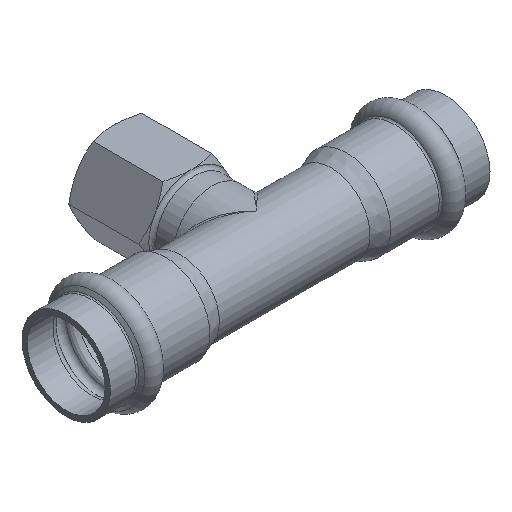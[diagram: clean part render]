
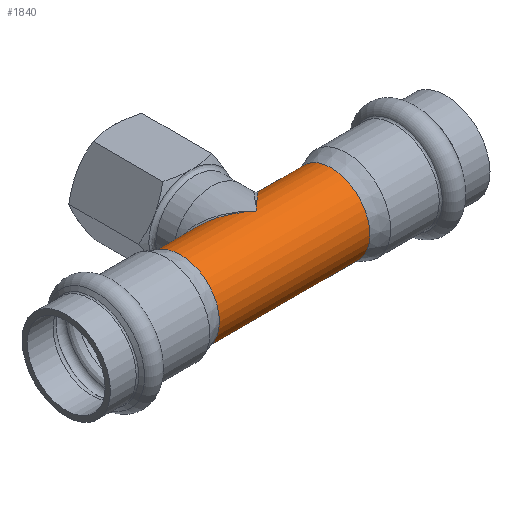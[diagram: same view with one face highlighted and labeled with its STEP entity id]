
A CAD part, isometric view. The second image highlights one B-rep face of the part: STEP entity #1840.
In plain terms, the highlighted cylindrical face has radius 11 mm (diameter 22 mm), a full revolution.
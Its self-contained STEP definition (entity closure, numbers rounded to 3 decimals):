
#1157=CARTESIAN_POINT('',(0.0,0.0,-11.));
#1158=VERTEX_POINT('',#1157);
#1159=CARTESIAN_POINT('',(0.0,0.0,11.));
#1160=VERTEX_POINT('',#1159);
#1161=CARTESIAN_POINT('',(0.0,0.0,0.0));
#1162=DIRECTION('',(0.676,0.737,0.0));
#1163=DIRECTION('',(-0.737,0.676,0.0));
#1164=AXIS2_PLACEMENT_3D('',#1161,#1162,#1163);
#1165=ELLIPSE('',#1164,16.279,11.);
#1166=EDGE_CURVE('',#1158,#1160,#1165,.T.);
#1323=CARTESIAN_POINT('',(0.0,0.0,0.0));
#1324=DIRECTION('',(-0.676,0.737,0.0));
#1325=DIRECTION('',(0.737,0.676,0.0));
#1326=AXIS2_PLACEMENT_3D('',#1323,#1324,#1325);
#1327=ELLIPSE('',#1326,16.279,11.);
#1328=EDGE_CURVE('',#1160,#1158,#1327,.T.);
#1802=CARTESIAN_POINT('',(-21.408,11.,0.0));
#1803=VERTEX_POINT('',#1802);
#1804=CARTESIAN_POINT('',(-21.408,0.,0.0));
#1805=DIRECTION('',(1.0,0.0,0.0));
#1806=DIRECTION('',(0.0,1.0,0.0));
#1807=AXIS2_PLACEMENT_3D('',#1804,#1805,#1806);
#1808=CIRCLE('',#1807,11.);
#1809=EDGE_CURVE('',#1803,#1803,#1808,.T.);
#1817=CARTESIAN_POINT('',(0.0,0.0,0.0));
#1818=DIRECTION('',(1.0,0.,0.0));
#1819=DIRECTION('',(0.0,1.0,0.0));
#1820=AXIS2_PLACEMENT_3D('',#1817,#1818,#1819);
#1821=CYLINDRICAL_SURFACE('',#1820,11.);
#1822=CARTESIAN_POINT('',(21.408,11.,0.0));
#1823=VERTEX_POINT('',#1822);
#1824=CARTESIAN_POINT('',(21.408,0.,0.0));
#1825=DIRECTION('',(1.0,0.0,0.0));
#1826=DIRECTION('',(0.0,1.0,0.0));
#1827=AXIS2_PLACEMENT_3D('',#1824,#1825,#1826);
#1828=CIRCLE('',#1827,11.);
#1829=EDGE_CURVE('',#1823,#1823,#1828,.T.);
#1830=ORIENTED_EDGE('',*,*,#1829,.F.);
#1831=EDGE_LOOP('',(#1830));
#1832=FACE_OUTER_BOUND('',#1831,.T.);
#1833=ORIENTED_EDGE('',*,*,#1166,.F.);
#1834=ORIENTED_EDGE('',*,*,#1328,.F.);
#1835=EDGE_LOOP('',(#1833,#1834));
#1836=FACE_BOUND('',#1835,.T.);
#1837=ORIENTED_EDGE('',*,*,#1809,.T.);
#1838=EDGE_LOOP('',(#1837));
#1839=FACE_BOUND('',#1838,.T.);
#1840=ADVANCED_FACE('',(#1832,#1836,#1839),#1821,.T.);
